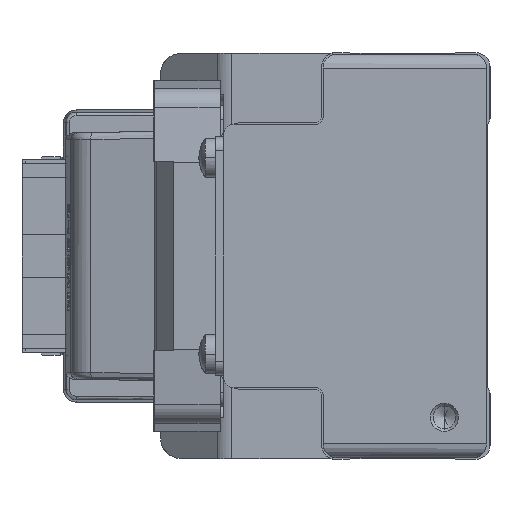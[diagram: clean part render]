
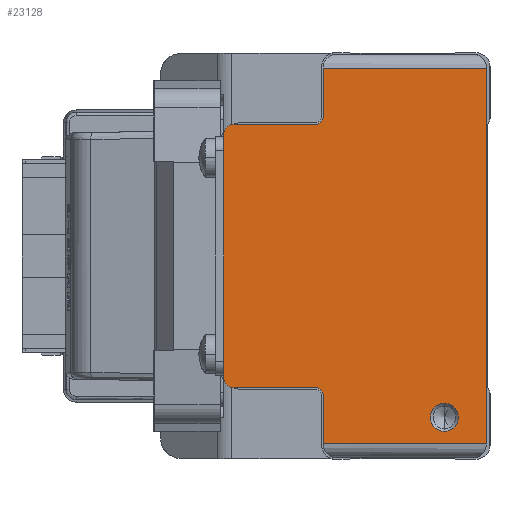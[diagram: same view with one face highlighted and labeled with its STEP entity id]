
A CAD part, left-side view. The second image highlights one B-rep face of the part: STEP entity #23128.
In plain terms, the highlighted planar face has unit normal (-1, 0, 0) as drawn and (0, 0, 1) by its records, which use the part's own axes.
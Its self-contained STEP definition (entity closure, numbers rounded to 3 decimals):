
#493 = EDGE_CURVE ( 'NONE', #1212, #23596, #12151, .T. ) ;
#1088 = DIRECTION ( 'NONE',  ( 0., 0., 1. ) ) ;
#1212 = VERTEX_POINT ( 'NONE', #26408 ) ;
#1280 = VECTOR ( 'NONE', #29997, 1000. ) ;
#1452 = CARTESIAN_POINT ( 'NONE',  ( 19.8, 23.8, 770. ) ) ;
#1685 = VERTEX_POINT ( 'NONE', #36143 ) ;
#1989 = VECTOR ( 'NONE', #9638, 1000. ) ;
#2051 = CARTESIAN_POINT ( 'NONE',  ( -26.8, 0.5, 770. ) ) ;
#2115 = EDGE_CURVE ( 'NONE', #9376, #18640, #26635, .T. ) ;
#2779 = LINE ( 'NONE', #37152, #1280 ) ;
#2984 = CARTESIAN_POINT ( 'NONE',  ( -26.8, 0.5, 770. ) ) ;
#4010 = EDGE_CURVE ( 'NONE', #11596, #37355, #30692, .T. ) ;
#4127 = VERTEX_POINT ( 'NONE', #24029 ) ;
#5432 = LINE ( 'NONE', #29339, #26255 ) ;
#5566 = ORIENTED_EDGE ( 'NONE', *, *, #8600, .T. ) ;
#5889 = CARTESIAN_POINT ( 'NONE',  ( -26.8, 23.8, 770. ) ) ;
#6071 = EDGE_CURVE ( 'NONE', #15841, #31671, #15541, .T. ) ;
#6123 = CARTESIAN_POINT ( 'NONE',  ( 26.8, 24., 770. ) ) ;
#6232 = ORIENTED_EDGE ( 'NONE', *, *, #4010, .F. ) ;
#6445 = ORIENTED_EDGE ( 'NONE', *, *, #6071, .T. ) ;
#7053 = ORIENTED_EDGE ( 'NONE', *, *, #32778, .T. ) ;
#7491 = DIRECTION ( 'NONE',  ( 0., 0., 1. ) ) ;
#8426 = CARTESIAN_POINT ( 'NONE',  ( -19.8, 24.8, 770. ) ) ;
#8466 = DIRECTION ( 'NONE',  ( 0., 0., 1. ) ) ;
#8600 = EDGE_CURVE ( 'NONE', #10995, #9376, #28420, .T. ) ;
#8846 = PLANE ( 'NONE',  #34116 ) ;
#8987 = EDGE_CURVE ( 'NONE', #4127, #18640, #23735, .T. ) ;
#9376 = VERTEX_POINT ( 'NONE', #2051 ) ;
#9638 = DIRECTION ( 'NONE',  ( -1., 0., 0. ) ) ;
#9918 = DIRECTION ( 'NONE',  ( 1., 0., 0. ) ) ;
#10042 = EDGE_CURVE ( 'NONE', #23596, #12218, #2779, .T. ) ;
#10320 = EDGE_CURVE ( 'NONE', #11596, #1212, #36809, .T. ) ;
#10552 = EDGE_CURVE ( 'NONE', #1685, #10995, #25799, .T. ) ;
#10640 = CARTESIAN_POINT ( 'NONE',  ( -25., 6.5, 770. ) ) ;
#10665 = CIRCLE ( 'NONE', #40632, 2. ) ;
#10699 = CIRCLE ( 'NONE', #21359, 1.5 ) ;
#10995 = VERTEX_POINT ( 'NONE', #5889 ) ;
#11596 = VERTEX_POINT ( 'NONE', #25762 ) ;
#11653 = EDGE_CURVE ( 'NONE', #28403, #26306, #5432, .T. ) ;
#12005 = CARTESIAN_POINT ( 'NONE',  ( 19.8, 24.8, 770. ) ) ;
#12151 = CIRCLE ( 'NONE', #19280, 1.5 ) ;
#12184 = FACE_BOUND ( 'NONE', #16009, .T. ) ;
#12218 = VERTEX_POINT ( 'NONE', #20989 ) ;
#12558 = VECTOR ( 'NONE', #26750, 1000. ) ;
#12603 = DIRECTION ( 'NONE',  ( -1., 0., 0. ) ) ;
#12969 = DIRECTION ( 'NONE',  ( 0., 0., -1. ) ) ;
#14993 = DIRECTION ( 'NONE',  ( 0., -1., 0. ) ) ;
#15505 = EDGE_CURVE ( 'NONE', #1685, #26306, #18051, .T. ) ;
#15541 = CIRCLE ( 'NONE', #31972, 2. ) ;
#15841 = VERTEX_POINT ( 'NONE', #10640 ) ;
#15927 = AXIS2_PLACEMENT_3D ( 'NONE', #8426, #1088, #35220 ) ;
#15964 = CARTESIAN_POINT ( 'NONE',  ( -26.8, 21.8, 770. ) ) ;
#16009 = EDGE_LOOP ( 'NONE', ( #6445, #7053 ) ) ;
#16703 = ORIENTED_EDGE ( 'NONE', *, *, #10552, .T. ) ;
#17308 = CARTESIAN_POINT ( 'NONE',  ( -17.3, 36.5, 770. ) ) ;
#17861 = CARTESIAN_POINT ( 'NONE',  ( 17.3, 36.5, 770. ) ) ;
#18051 = CIRCLE ( 'NONE', #15927, 1. ) ;
#18438 = FACE_OUTER_BOUND ( 'NONE', #39711, .T. ) ;
#18529 = EDGE_CURVE ( 'NONE', #12218, #28403, #10699, .T. ) ;
#18640 = VERTEX_POINT ( 'NONE', #33327 ) ;
#18689 = DIRECTION ( 'NONE',  ( 1., 0., 0. ) ) ;
#19054 = VECTOR ( 'NONE', #14993, 1000. ) ;
#19280 = AXIS2_PLACEMENT_3D ( 'NONE', #17861, #42006, #31748 ) ;
#19538 = ORIENTED_EDGE ( 'NONE', *, *, #15505, .F. ) ;
#20693 = DIRECTION ( 'NONE',  ( 1., 0., 0. ) ) ;
#20883 = ORIENTED_EDGE ( 'NONE', *, *, #24216, .T. ) ;
#20989 = CARTESIAN_POINT ( 'NONE',  ( -17.3, 38., 770. ) ) ;
#21216 = ORIENTED_EDGE ( 'NONE', *, *, #8987, .F. ) ;
#21359 = AXIS2_PLACEMENT_3D ( 'NONE', #17308, #7491, #20693 ) ;
#22220 = DIRECTION ( 'NONE',  ( 1., 0., 0. ) ) ;
#23128 = ADVANCED_FACE ( 'NONE', ( #12184, #18438 ), #8846, .T. ) ;
#23148 = CARTESIAN_POINT ( 'NONE',  ( 18.8, 24.8, 770. ) ) ;
#23398 = CARTESIAN_POINT ( 'NONE',  ( 17.3, 38., 770. ) ) ;
#23596 = VERTEX_POINT ( 'NONE', #23398 ) ;
#23735 = LINE ( 'NONE', #6123, #27014 ) ;
#24029 = CARTESIAN_POINT ( 'NONE',  ( 26.8, 23.8, 770. ) ) ;
#24216 = EDGE_CURVE ( 'NONE', #4127, #37355, #43975, .T. ) ;
#25762 = CARTESIAN_POINT ( 'NONE',  ( 18.8, 24.8, 770. ) ) ;
#25799 = LINE ( 'NONE', #28730, #38992 ) ;
#25977 = DIRECTION ( 'NONE',  ( 0., -1., 0. ) ) ;
#26255 = VECTOR ( 'NONE', #25977, 1000. ) ;
#26306 = VERTEX_POINT ( 'NONE', #32436 ) ;
#26408 = CARTESIAN_POINT ( 'NONE',  ( 18.8, 36.5, 770. ) ) ;
#26532 = VECTOR ( 'NONE', #9918, 1000. ) ;
#26635 = LINE ( 'NONE', #2984, #26532 ) ;
#26750 = DIRECTION ( 'NONE',  ( 0., 1., 0. ) ) ;
#27014 = VECTOR ( 'NONE', #33160, 1000. ) ;
#28403 = VERTEX_POINT ( 'NONE', #38521 ) ;
#28420 = LINE ( 'NONE', #41822, #19054 ) ;
#28730 = CARTESIAN_POINT ( 'NONE',  ( -19.8, 23.8, 770. ) ) ;
#29339 = CARTESIAN_POINT ( 'NONE',  ( -18.8, 36.5, 770. ) ) ;
#29997 = DIRECTION ( 'NONE',  ( -1., 0., 0. ) ) ;
#30692 = CIRCLE ( 'NONE', #38514, 1. ) ;
#31408 = CARTESIAN_POINT ( 'NONE',  ( -21., 6.5, 770. ) ) ;
#31671 = VERTEX_POINT ( 'NONE', #31408 ) ;
#31748 = DIRECTION ( 'NONE',  ( 1., 0., 0. ) ) ;
#31972 = AXIS2_PLACEMENT_3D ( 'NONE', #36248, #12969, #43125 ) ;
#32118 = DIRECTION ( 'NONE',  ( 0., 0., 1. ) ) ;
#32436 = CARTESIAN_POINT ( 'NONE',  ( -18.8, 24.8, 770. ) ) ;
#32778 = EDGE_CURVE ( 'NONE', #31671, #15841, #10665, .T. ) ;
#33160 = DIRECTION ( 'NONE',  ( 0., -1., 0. ) ) ;
#33327 = CARTESIAN_POINT ( 'NONE',  ( 26.8, 0.5, 770. ) ) ;
#33469 = ORIENTED_EDGE ( 'NONE', *, *, #10042, .T. ) ;
#34116 = AXIS2_PLACEMENT_3D ( 'NONE', #15964, #32118, #22220 ) ;
#34261 = DIRECTION ( 'NONE',  ( 0., 0., -1. ) ) ;
#35220 = DIRECTION ( 'NONE',  ( 1., 0., 0. ) ) ;
#36100 = ORIENTED_EDGE ( 'NONE', *, *, #11653, .T. ) ;
#36143 = CARTESIAN_POINT ( 'NONE',  ( -19.8, 23.8, 770. ) ) ;
#36248 = CARTESIAN_POINT ( 'NONE',  ( -23., 6.5, 770. ) ) ;
#36809 = LINE ( 'NONE', #23148, #12558 ) ;
#37152 = CARTESIAN_POINT ( 'NONE',  ( 17.3, 38., 770. ) ) ;
#37355 = VERTEX_POINT ( 'NONE', #1452 ) ;
#38346 = ORIENTED_EDGE ( 'NONE', *, *, #2115, .T. ) ;
#38476 = DIRECTION ( 'NONE',  ( -1., 0., 0. ) ) ;
#38514 = AXIS2_PLACEMENT_3D ( 'NONE', #12005, #8466, #18689 ) ;
#38521 = CARTESIAN_POINT ( 'NONE',  ( -18.8, 36.5, 770. ) ) ;
#38992 = VECTOR ( 'NONE', #12603, 1000. ) ;
#39511 = ORIENTED_EDGE ( 'NONE', *, *, #18529, .T. ) ;
#39711 = EDGE_LOOP ( 'NONE', ( #36100, #19538, #16703, #5566, #38346, #21216, #20883, #6232, #42801, #40097, #33469, #39511 ) ) ;
#40097 = ORIENTED_EDGE ( 'NONE', *, *, #493, .T. ) ;
#40217 = CARTESIAN_POINT ( 'NONE',  ( 26.8, 23.8, 770. ) ) ;
#40632 = AXIS2_PLACEMENT_3D ( 'NONE', #41170, #34261, #38476 ) ;
#41170 = CARTESIAN_POINT ( 'NONE',  ( -23., 6.5, 770. ) ) ;
#41822 = CARTESIAN_POINT ( 'NONE',  ( -26.8, 24., 770. ) ) ;
#42006 = DIRECTION ( 'NONE',  ( 0., 0., 1. ) ) ;
#42801 = ORIENTED_EDGE ( 'NONE', *, *, #10320, .T. ) ;
#43125 = DIRECTION ( 'NONE',  ( -1., 0., 0. ) ) ;
#43975 = LINE ( 'NONE', #40217, #1989 ) ;
